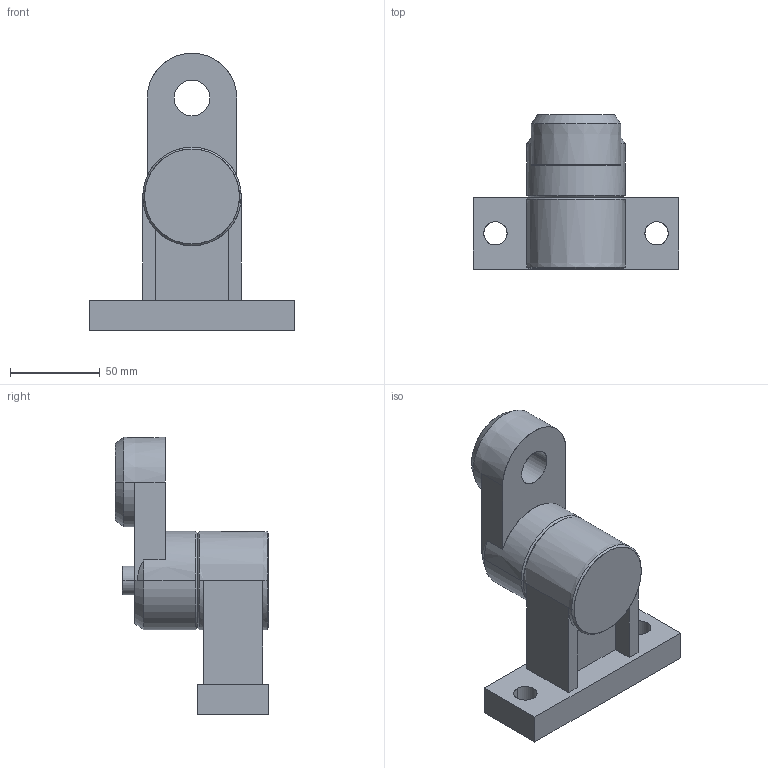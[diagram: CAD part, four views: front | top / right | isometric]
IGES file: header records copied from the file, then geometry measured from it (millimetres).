
Start section: SolidWorks IGES file using analytic representation for surfaces
Global section: file name: X:\11_SW2020-Inv2020\00_全2021-11新製品まで\a\ANT75A\ant75a.IGS; native system: SolidWorks 2020; preprocessor: SolidWorks 2020; author: ImaoCorp; date: 211021.164336; units: millimetre
Bounding box: 115 x 86 x 155 mm (x, y, z)
Surface area: 53909.7 mm2 (no closed solid volume)
Topology: 0 solids, 0 shells, 64 faces, 968 edges, 968 vertices
Faces by surface type: bspline 36, revolution 28
